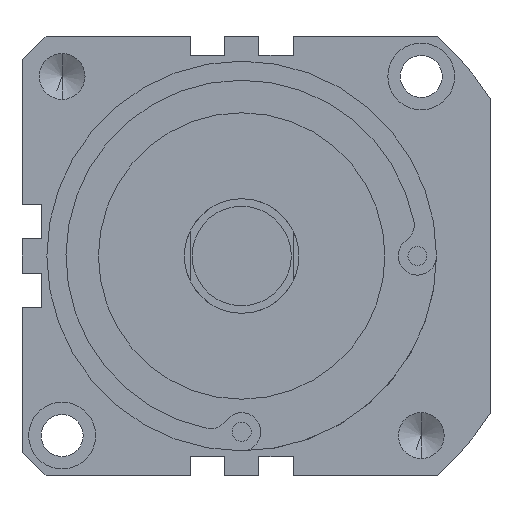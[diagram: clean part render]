
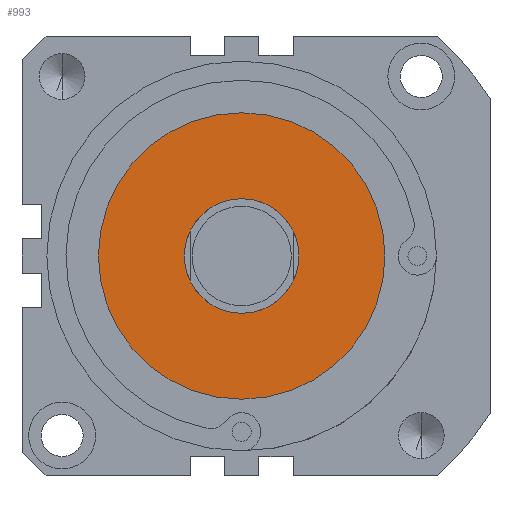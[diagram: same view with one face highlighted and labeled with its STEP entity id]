
A CAD part, front view. The second image highlights one B-rep face of the part: STEP entity #993.
In plain terms, the highlighted planar face has unit normal (0, -1, 0).
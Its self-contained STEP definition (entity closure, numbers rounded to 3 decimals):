
#96 = AXIS2_PLACEMENT_3D ( 'NONE', #2373, #792, #749 ) ;
#196 = CARTESIAN_POINT ( 'NONE',  ( 0., -83., 0. ) ) ;
#315 = VERTEX_POINT ( 'NONE', #1313 ) ;
#338 = CIRCLE ( 'NONE', #1808, 37.5 ) ;
#367 = CIRCLE ( 'NONE', #4064, 15. ) ;
#749 = DIRECTION ( 'NONE',  ( 0., 0., 1. ) ) ;
#792 = DIRECTION ( 'NONE',  ( 0., 1., 0. ) ) ;
#827 = ORIENTED_EDGE ( 'NONE', *, *, #3723, .F. ) ;
#901 = EDGE_CURVE ( 'NONE', #3670, #315, #338, .T. ) ;
#993 = ADVANCED_FACE ( 'NONE', ( #3886, #3032 ), #1877, .F. ) ;
#1078 = EDGE_LOOP ( 'NONE', ( #1811, #3378 ) ) ;
#1101 = CARTESIAN_POINT ( 'NONE',  ( 0., -83., 0. ) ) ;
#1145 = DIRECTION ( 'NONE',  ( 0., 0., 1. ) ) ;
#1206 = CARTESIAN_POINT ( 'NONE',  ( 0., -83., 15. ) ) ;
#1310 = CARTESIAN_POINT ( 'NONE',  ( 0., -83., 0. ) ) ;
#1313 = CARTESIAN_POINT ( 'NONE',  ( 0., -83., -37.5 ) ) ;
#1450 = CIRCLE ( 'NONE', #96, 37.5 ) ;
#1531 = VERTEX_POINT ( 'NONE', #1206 ) ;
#1611 = EDGE_CURVE ( 'NONE', #3724, #1531, #367, .T. ) ;
#1629 = CIRCLE ( 'NONE', #2570, 15. ) ;
#1808 = AXIS2_PLACEMENT_3D ( 'NONE', #196, #2458, #2099 ) ;
#1811 = ORIENTED_EDGE ( 'NONE', *, *, #1843, .T. ) ;
#1843 = EDGE_CURVE ( 'NONE', #1531, #3724, #1629, .T. ) ;
#1877 = PLANE ( 'NONE',  #3568 ) ;
#2099 = DIRECTION ( 'NONE',  ( 0., 0., 1. ) ) ;
#2160 = DIRECTION ( 'NONE',  ( 0., 0., 1. ) ) ;
#2282 = DIRECTION ( 'NONE',  ( 0., 1., 0. ) ) ;
#2373 = CARTESIAN_POINT ( 'NONE',  ( 0., -83., 0. ) ) ;
#2458 = DIRECTION ( 'NONE',  ( 0., 1., 0. ) ) ;
#2503 = CARTESIAN_POINT ( 'NONE',  ( 0., -83., 0. ) ) ;
#2570 = AXIS2_PLACEMENT_3D ( 'NONE', #1101, #2753, #1145 ) ;
#2693 = CARTESIAN_POINT ( 'NONE',  ( 0., -83., 37.5 ) ) ;
#2753 = DIRECTION ( 'NONE',  ( 0., 1., 0. ) ) ;
#3032 = FACE_OUTER_BOUND ( 'NONE', #3916, .T. ) ;
#3378 = ORIENTED_EDGE ( 'NONE', *, *, #1611, .T. ) ;
#3568 = AXIS2_PLACEMENT_3D ( 'NONE', #2503, #4143, #2160 ) ;
#3670 = VERTEX_POINT ( 'NONE', #2693 ) ;
#3719 = ORIENTED_EDGE ( 'NONE', *, *, #901, .F. ) ;
#3723 = EDGE_CURVE ( 'NONE', #315, #3670, #1450, .T. ) ;
#3724 = VERTEX_POINT ( 'NONE', #3993 ) ;
#3881 = DIRECTION ( 'NONE',  ( 0., 0., 1. ) ) ;
#3886 = FACE_BOUND ( 'NONE', #1078, .T. ) ;
#3916 = EDGE_LOOP ( 'NONE', ( #827, #3719 ) ) ;
#3993 = CARTESIAN_POINT ( 'NONE',  ( 0., -83., -15. ) ) ;
#4064 = AXIS2_PLACEMENT_3D ( 'NONE', #1310, #2282, #3881 ) ;
#4143 = DIRECTION ( 'NONE',  ( 0., 1., 0. ) ) ;
